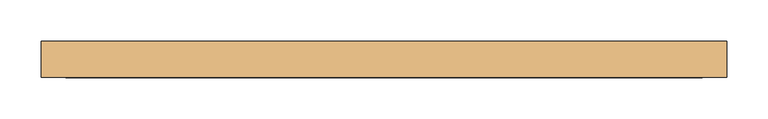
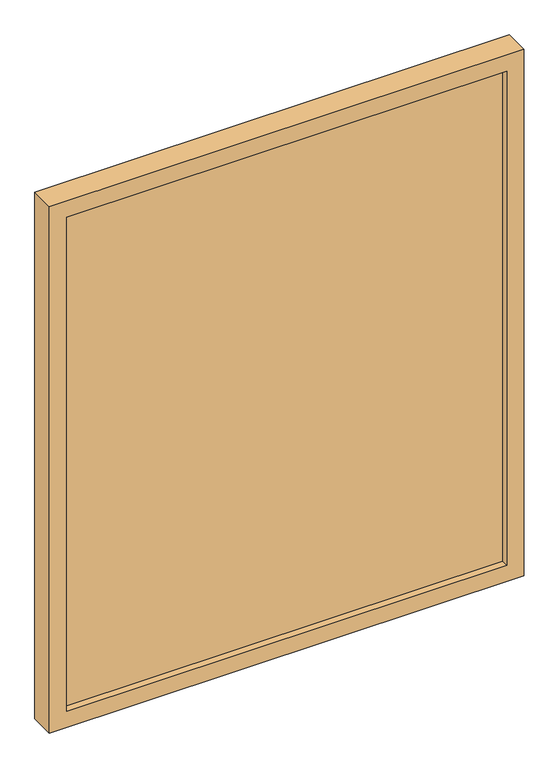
"""IFC4 building model written with IfcOpenShell, lengths in millimetres: door geometry, PUERTA_REJA_BAJA : PUERTA_REJA_BAJA."""

from ifc_helpers import new_model, si_unit, frame, origin, place, context, project, spatial, polyline, outline, extrude, source, transform, mapped, element, save


def door_34f0c045(model_context):
    return source(origin(), model_context, "Body", "SweptSolid", [
        extrude(outline(polyline([(387.8756578, -28.3), (387.8756578, -47.3), (-387.8756578, -47.3), (-387.8756578, -28.3), (387.8756578, -28.3)])), frame((0.0, 0.0, 30.0), z_axis=(0.0, 0.0, 1.0), x_axis=(1.0, 0.0, 0.0)), (0.0, 0.0, 1.0), 920.0),
        extrude(outline(polyline([(980.0, -417.8756578), (0.0, -417.8756578), (0.0, 417.8756578), (980.0, 417.8756578), (980.0, -417.8756578)]), holes=[polyline([(950.0, -387.8756578), (950.0, 387.8756578), (30.0, 387.8756578), (30.0, -387.8756578), (950.0, -387.8756578)])]), frame((0.0, -60.0, 0.0), z_axis=(0.0, 1.0, 0.0), x_axis=(0.0, 0.0, 1.0)), (0.0, 0.0, 1.0), 44.4),
    ])


if __name__ == "__main__":
    model = new_model("IFC4")
    model_context = context("Model", 3, world=origin())
    ifc_project = project(units=[si_unit("LENGTHUNIT", "METRE", prefix="MILLI")], contexts=[model_context])
    site = spatial("IfcSite", under=ifc_project)
    building = spatial("IfcBuilding", under=site)
    placement = place(None, origin())
    door_shape = door_34f0c045(model_context)
    element("IfcDoor", 1, ObjectType="PUERTA_REJA_BAJA : PUERTA_REJA_BAJA", at=placement, inside=building, context=model_context, shape_type="MappedRepresentation", body=[
        mapped(door_shape, transform((0.0, 0.0, 0.0), x_axis=(1.0, 0.0, 0.0), y_axis=(0.0, 1.0, 0.0), z_axis=(0.0, 0.0, 1.0))),
    ])
    save(model, "model.ifc")
